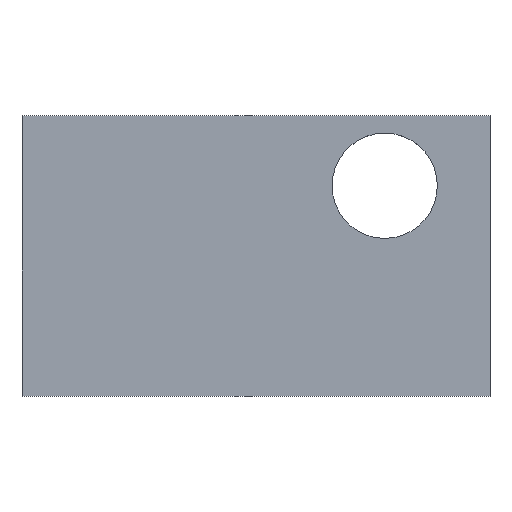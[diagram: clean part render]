
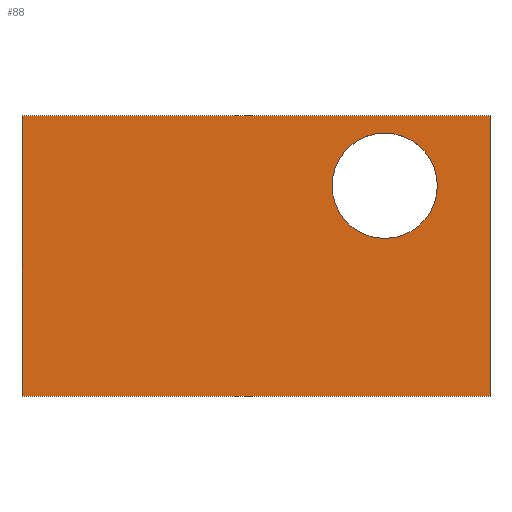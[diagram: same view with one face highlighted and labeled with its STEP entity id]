
A CAD part, top view. The second image highlights one B-rep face of the part: STEP entity #88.
In plain terms, the highlighted planar face has unit normal (0, 0, 1).
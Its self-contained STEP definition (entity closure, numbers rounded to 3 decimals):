
#24 = VERTEX_POINT('',#25);
#25 = CARTESIAN_POINT('',(-20.,-36.,206.));
#40 = VERTEX_POINT('',#41);
#41 = CARTESIAN_POINT('',(-20.,-12.,206.));
#47 = EDGE_CURVE('',#24,#40,#48,.T.);
#48 = LINE('',#49,#50);
#49 = CARTESIAN_POINT('',(-20.,-36.,206.));
#50 = VECTOR('',#51,1.);
#51 = DIRECTION('',(0.,1.,0.));
#70 = EDGE_CURVE('',#24,#71,#73,.T.);
#71 = VERTEX_POINT('',#72);
#72 = CARTESIAN_POINT('',(20.,-36.,206.));
#73 = LINE('',#74,#75);
#74 = CARTESIAN_POINT('',(-20.,-36.,206.));
#75 = VECTOR('',#76,1.);
#76 = DIRECTION('',(1.,0.,0.));
#88 = ADVANCED_FACE('',(#89,#107),#118,.T.);
#89 = FACE_BOUND('',#90,.T.);
#90 = EDGE_LOOP('',(#91,#92,#93,#101));
#91 = ORIENTED_EDGE('',*,*,#47,.F.);
#92 = ORIENTED_EDGE('',*,*,#70,.T.);
#93 = ORIENTED_EDGE('',*,*,#94,.T.);
#94 = EDGE_CURVE('',#71,#95,#97,.T.);
#95 = VERTEX_POINT('',#96);
#96 = CARTESIAN_POINT('',(20.,-12.,206.));
#97 = LINE('',#98,#99);
#98 = CARTESIAN_POINT('',(20.,-36.,206.));
#99 = VECTOR('',#100,1.);
#100 = DIRECTION('',(0.,1.,0.));
#101 = ORIENTED_EDGE('',*,*,#102,.F.);
#102 = EDGE_CURVE('',#40,#95,#103,.T.);
#103 = LINE('',#104,#105);
#104 = CARTESIAN_POINT('',(-20.,-12.,206.));
#105 = VECTOR('',#106,1.);
#106 = DIRECTION('',(1.,0.,0.));
#107 = FACE_BOUND('',#108,.T.);
#108 = EDGE_LOOP('',(#109));
#109 = ORIENTED_EDGE('',*,*,#110,.F.);
#110 = EDGE_CURVE('',#111,#111,#113,.T.);
#111 = VERTEX_POINT('',#112);
#112 = CARTESIAN_POINT('',(15.5,-18.,206.));
#113 = CIRCLE('',#114,4.5);
#114 = AXIS2_PLACEMENT_3D('',#115,#116,#117);
#115 = CARTESIAN_POINT('',(11.,-18.,206.));
#116 = DIRECTION('',(0.,0.,1.));
#117 = DIRECTION('',(1.,0.,0.));
#118 = PLANE('',#119);
#119 = AXIS2_PLACEMENT_3D('',#120,#121,#122);
#120 = CARTESIAN_POINT('',(-20.,-36.,206.));
#121 = DIRECTION('',(0.,0.,1.));
#122 = DIRECTION('',(1.,0.,0.));
